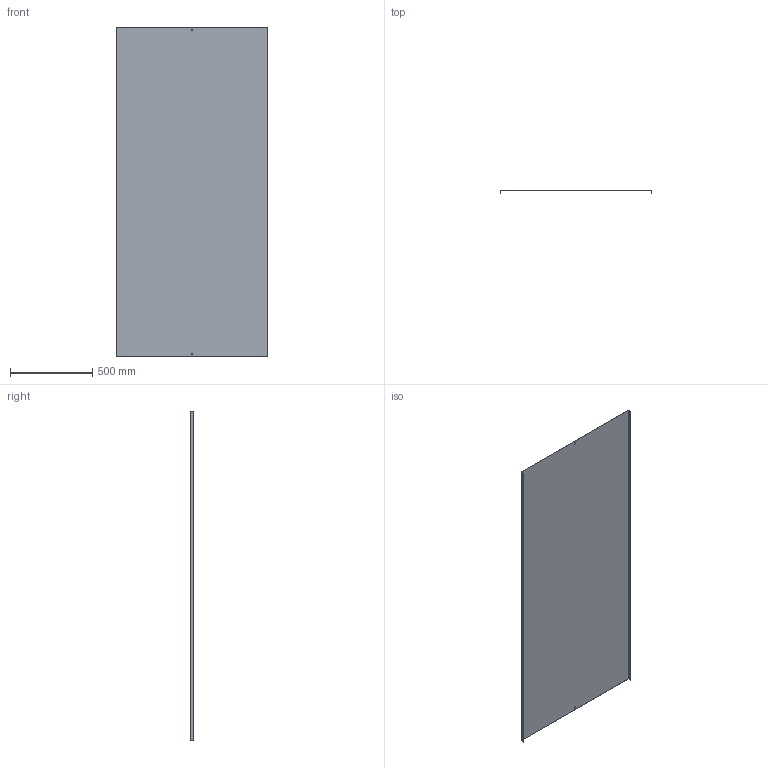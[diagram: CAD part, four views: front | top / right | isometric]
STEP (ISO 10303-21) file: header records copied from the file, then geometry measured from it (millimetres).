
FILE_DESCRIPTION (( 'STEP AP214' ), '1' );
FILE_NAME ('05G2P900.step', '2025-02-21T14:22:12', ( '' ), ( '' ), 'SwSTEP 2.0', 'SolidWorks 2023', '' );
FILE_SCHEMA (( 'AUTOMOTIVE_DESIGN' ));
Length unit declared in the file: millimetre
Products named in the file (1): 05G2P900
Bounding box: 923 x 20 x 2000 mm (x, y, z)
Volume: 2879824.5 mm3; surface area: 3848739 mm2
Topology: 1 solids, 1 shells, 18 faces, 48 edges, 32 vertices
Faces by surface type: plane 18
Entity records: 583 total; most frequent: CARTESIAN_POINT 99, ORIENTED_EDGE 96, DIRECTION 86, EDGE_CURVE 48, VECTOR 48, LINE 48, VERTEX_POINT 32, EDGE_LOOP 22
